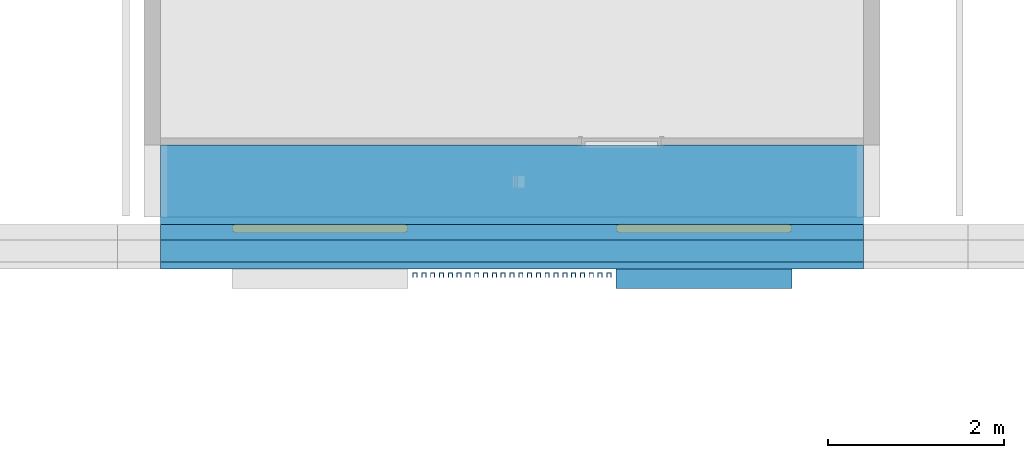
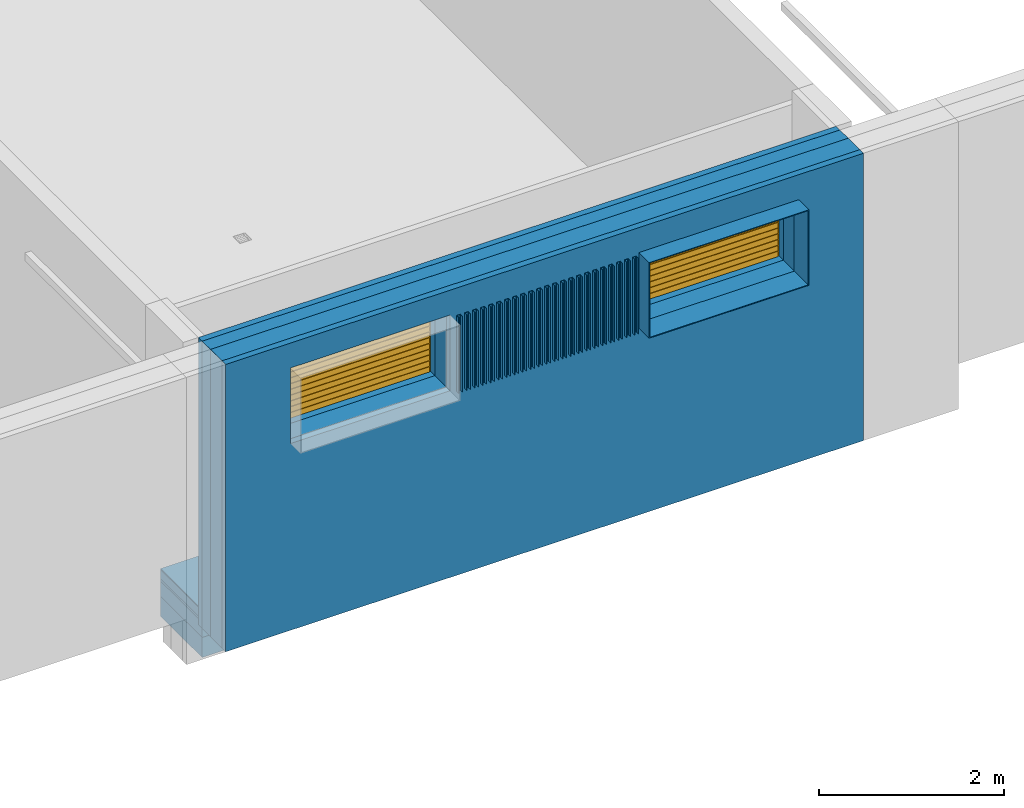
# One storey, part 18 of 100: 24 discrete accessories, 9 building element parts, 2 windows, 2 openings, 2 elements without a shape of their own.
"""IFC2X3 building model written with IfcOpenShell, lengths in millimetres."""

from ifc_helpers import new_model, entity, si_unit, converted_unit, derived_unit, money_unit, direction, frame, origin_with_axes, origin_2d_with_axis, place, context, subcontext, project, spatial, polyline, rectangle, outline, extrude, faceted_brep, source, transform, mapped, material, type_object, element, fill, aggregate, save


model = new_model("IFC2X3")

# Units and contexts
model_context = context("Model", 3, precision=0.01, world=origin_with_axes(), true_north=direction((0.0, 1.0)))
body_context = subcontext(model_context, "Body", "Model", "MODEL_VIEW")
ifc_project = project(units=[si_unit("LENGTHUNIT", "METRE", prefix="MILLI"), si_unit("AREAUNIT", "SQUARE_METRE"), si_unit("VOLUMEUNIT", "CUBIC_METRE"), converted_unit("PLANEANGLEUNIT", "DEGREE", entity("IfcPlaneAngleMeasure", 0.0174532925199), si_unit("PLANEANGLEUNIT", "RADIAN"), dimensions=[0, 0, 0, 0, 0, 0, 0]), si_unit("SOLIDANGLEUNIT", "STERADIAN"), money_unit("EUR"), converted_unit("TIMEUNIT", "Year", entity("IfcTimeMeasure", 31556926.0), si_unit("TIMEUNIT", "SECOND"), dimensions=[0, 0, 1, 0, 0, 0, 0]), si_unit("MASSUNIT", "GRAM", prefix="KILO"), si_unit("THERMODYNAMICTEMPERATUREUNIT", "DEGREE_CELSIUS"), si_unit("LUMINOUSINTENSITYUNIT", "LUMEN"), si_unit("ENERGYUNIT", "JOULE", prefix="MEGA"), derived_unit("THERMALCONDUCTANCEUNIT", [(si_unit("POWERUNIT", "WATT"), 1), (si_unit("LENGTHUNIT", "METRE"), -1), (si_unit("THERMODYNAMICTEMPERATUREUNIT", "KELVIN"), -1)]), derived_unit("SPECIFICHEATCAPACITYUNIT", [(si_unit("ENERGYUNIT", "JOULE"), 1), (si_unit("MASSUNIT", "GRAM", prefix="KILO"), -1), (si_unit("THERMODYNAMICTEMPERATUREUNIT", "KELVIN"), -1)]), derived_unit("MASSDENSITYUNIT", [(si_unit("MASSUNIT", "GRAM", prefix="KILO"), 1), (si_unit("VOLUMEUNIT", "CUBIC_METRE"), -1)])], contexts=[model_context])

# Site, building, storey
site_placement = place(None, origin_with_axes())
site = spatial("IfcSite", under=ifc_project, at=site_placement, Name="Politse- ja Piirivalveameti ning Päästeameti ühishoone", CompositionType="ELEMENT")
building_placement = place(site_placement, origin_with_axes())
building = spatial("IfcBuilding", under=site, at=building_placement, Name="Politse- ja Piirivalveameti ning Päästeameti ühishoone", CompositionType="ELEMENT")
storey_placement = place(building_placement, frame((0.0, 0.0, 3800.0), z_axis=(0.0, 0.0, 1.0), x_axis=(1.0, 0.0, 0.0)))
storey = spatial("IfcBuildingStorey", under=building, at=storey_placement, Name="Teine korrus", CompositionType="ELEMENT", Elevation=3800.0)

# Window
window_style = type_object("IfcWindowStyle", Name="Glass Block Wall 23", ConstructionType="NOTDEFINED", OperationType="USERDEFINED", ParameterTakesPrecedence=False, Sizeable=False)
shared_shape_1 = source(origin_with_axes(), body_context, "Body", "Brep", [
    faceted_brep([(1000.0, -16.0, 0.0), (1000.0, -86.0, 0.0), (-1000.0, -86.0, 0.0), (-1000.0, -16.0, 0.0), (1000.0, -16.0, 1000.0), (1000.0, -86.0, 1000.0), (-1000.0, -86.0, 1000.0), (975.0, -86.0, 6.42857142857), (-975.0, -86.0, 6.42857142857), (-975.0, -86.0, 76.4285714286), (975.0, -86.0, 76.4285714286), (975.0, -86.0, 82.8571428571), (-975.0, -86.0, 82.8571428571), (-975.0, -86.0, 152.857142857), (975.0, -86.0, 152.857142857), (975.0, -86.0, 159.285714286), (-975.0, -86.0, 159.285714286), (-975.0, -86.0, 229.285714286), (975.0, -86.0, 229.285714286), (975.0, -86.0, 235.714285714), (-975.0, -86.0, 235.714285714), (-975.0, -86.0, 305.714285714), (975.0, -86.0, 305.714285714), (975.0, -86.0, 312.142857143), (-975.0, -86.0, 312.142857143), (-975.0, -86.0, 382.142857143), (975.0, -86.0, 382.142857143), (975.0, -86.0, 388.571428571), (-975.0, -86.0, 388.571428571), (-975.0, -86.0, 458.571428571), (975.0, -86.0, 458.571428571), (975.0, -86.0, 465.0), (-975.0, -86.0, 465.0), (-975.0, -86.0, 535.0), (975.0, -86.0, 535.0), (975.0, -86.0, 541.428571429), (-975.0, -86.0, 541.428571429), (-975.0, -86.0, 611.428571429), (975.0, -86.0, 611.428571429), (975.0, -86.0, 617.857142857), (-975.0, -86.0, 617.857142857), (-975.0, -86.0, 687.857142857), (975.0, -86.0, 687.857142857), (975.0, -86.0, 694.285714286), (-975.0, -86.0, 694.285714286), (-975.0, -86.0, 764.285714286), (975.0, -86.0, 764.285714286), (975.0, -86.0, 770.714285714), (-975.0, -86.0, 770.714285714), (-975.0, -86.0, 840.714285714), (975.0, -86.0, 840.714285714), (975.0, -86.0, 847.142857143), (-975.0, -86.0, 847.142857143), (-975.0, -86.0, 917.142857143), (975.0, -86.0, 917.142857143), (975.0, -86.0, 923.571428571), (-975.0, -86.0, 923.571428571), (-975.0, -86.0, 993.571428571), (975.0, -86.0, 993.571428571), (-1000.0, -16.0, 1000.0), (975.0, -16.0, 6.42857142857), (975.0, -16.0, 76.4285714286), (-975.0, -16.0, 76.4285714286), (-975.0, -16.0, 6.42857142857), (975.0, -16.0, 82.8571428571), (975.0, -16.0, 152.857142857), (-975.0, -16.0, 152.857142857), (-975.0, -16.0, 82.8571428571), (975.0, -16.0, 159.285714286), (975.0, -16.0, 229.285714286), (-975.0, -16.0, 229.285714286), (-975.0, -16.0, 159.285714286), (975.0, -16.0, 235.714285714), (975.0, -16.0, 305.714285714), (-975.0, -16.0, 305.714285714), (-975.0, -16.0, 235.714285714), (975.0, -16.0, 312.142857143), (975.0, -16.0, 382.142857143), (-975.0, -16.0, 382.142857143), (-975.0, -16.0, 312.142857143), (975.0, -16.0, 388.571428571), (975.0, -16.0, 458.571428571), (-975.0, -16.0, 458.571428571), (-975.0, -16.0, 388.571428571), (975.0, -16.0, 465.0), (975.0, -16.0, 535.0), (-975.0, -16.0, 535.0), (-975.0, -16.0, 465.0), (975.0, -16.0, 541.428571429), (975.0, -16.0, 611.428571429), (-975.0, -16.0, 611.428571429), (-975.0, -16.0, 541.428571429), (975.0, -16.0, 617.857142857), (975.0, -16.0, 687.857142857), (-975.0, -16.0, 687.857142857), (-975.0, -16.0, 617.857142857), (975.0, -16.0, 694.285714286), (975.0, -16.0, 764.285714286), (-975.0, -16.0, 764.285714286), (-975.0, -16.0, 694.285714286), (975.0, -16.0, 770.714285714), (975.0, -16.0, 840.714285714), (-975.0, -16.0, 840.714285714), (-975.0, -16.0, 770.714285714), (975.0, -16.0, 847.142857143), (975.0, -16.0, 917.142857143), (-975.0, -16.0, 917.142857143), (-975.0, -16.0, 847.142857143), (975.0, -16.0, 923.571428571), (975.0, -16.0, 993.571428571), (-975.0, -16.0, 993.571428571), (-975.0, -16.0, 923.571428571)], [[[0, 1, 2, 3]], [[4, 5, 1, 0]], [[1, 5, 6, 2], [7, 8, 9, 10], [11, 12, 13, 14], [15, 16, 17, 18], [19, 20, 21, 22], [23, 24, 25, 26], [27, 28, 29, 30], [31, 32, 33, 34], [35, 36, 37, 38], [39, 40, 41, 42], [43, 44, 45, 46], [47, 48, 49, 50], [51, 52, 53, 54], [55, 56, 57, 58]], [[3, 2, 6, 59]], [[0, 3, 59, 4], [60, 61, 62, 63], [64, 65, 66, 67], [68, 69, 70, 71], [72, 73, 74, 75], [76, 77, 78, 79], [80, 81, 82, 83], [84, 85, 86, 87], [88, 89, 90, 91], [92, 93, 94, 95], [96, 97, 98, 99], [100, 101, 102, 103], [104, 105, 106, 107], [108, 109, 110, 111]], [[59, 6, 5, 4]], [[63, 8, 7, 60]], [[62, 9, 8, 63]], [[61, 10, 9, 62]], [[60, 7, 10, 61]], [[67, 12, 11, 64]], [[66, 13, 12, 67]], [[65, 14, 13, 66]], [[64, 11, 14, 65]], [[71, 16, 15, 68]], [[70, 17, 16, 71]], [[69, 18, 17, 70]], [[68, 15, 18, 69]], [[75, 20, 19, 72]], [[74, 21, 20, 75]], [[73, 22, 21, 74]], [[72, 19, 22, 73]], [[79, 24, 23, 76]], [[78, 25, 24, 79]], [[77, 26, 25, 78]], [[76, 23, 26, 77]], [[83, 28, 27, 80]], [[82, 29, 28, 83]], [[81, 30, 29, 82]], [[80, 27, 30, 81]], [[87, 32, 31, 84]], [[86, 33, 32, 87]], [[85, 34, 33, 86]], [[84, 31, 34, 85]], [[91, 36, 35, 88]], [[90, 37, 36, 91]], [[89, 38, 37, 90]], [[88, 35, 38, 89]], [[95, 40, 39, 92]], [[94, 41, 40, 95]], [[93, 42, 41, 94]], [[92, 39, 42, 93]], [[99, 44, 43, 96]], [[98, 45, 44, 99]], [[97, 46, 45, 98]], [[96, 43, 46, 97]], [[103, 48, 47, 100]], [[102, 49, 48, 103]], [[101, 50, 49, 102]], [[100, 47, 50, 101]], [[107, 52, 51, 104]], [[106, 53, 52, 107]], [[105, 54, 53, 106]], [[104, 51, 54, 105]], [[111, 56, 55, 108]], [[110, 57, 56, 111]], [[109, 58, 57, 110]], [[108, 55, 58, 109]]]),
    faceted_brep([(975.0, 0.0, 6.42857142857), (975.0, -102.0, 6.42857142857), (-975.0, -102.0, 6.42857142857), (-975.0, 0.0, 6.42857142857), (975.0, 0.0, 76.4285714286), (975.0, -102.0, 76.4285714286), (-975.0, -102.0, 76.4285714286), (-975.0, 0.0, 76.4285714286)], [[[0, 1, 2, 3]], [[4, 5, 1, 0]], [[1, 5, 6, 2]], [[3, 2, 6, 7]], [[0, 3, 7, 4]], [[7, 6, 5, 4]]]),
    faceted_brep([(975.0, 0.0, 82.8571428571), (975.0, -102.0, 82.8571428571), (-975.0, -102.0, 82.8571428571), (-975.0, 0.0, 82.8571428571), (975.0, 0.0, 152.857142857), (975.0, -102.0, 152.857142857), (-975.0, -102.0, 152.857142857), (-975.0, 0.0, 152.857142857)], [[[0, 1, 2, 3]], [[4, 5, 1, 0]], [[1, 5, 6, 2]], [[3, 2, 6, 7]], [[0, 3, 7, 4]], [[7, 6, 5, 4]]]),
    faceted_brep([(975.0, 0.0, 159.285714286), (975.0, -102.0, 159.285714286), (-975.0, -102.0, 159.285714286), (-975.0, 0.0, 159.285714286), (975.0, 0.0, 229.285714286), (975.0, -102.0, 229.285714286), (-975.0, -102.0, 229.285714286), (-975.0, 0.0, 229.285714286)], [[[0, 1, 2, 3]], [[4, 5, 1, 0]], [[1, 5, 6, 2]], [[3, 2, 6, 7]], [[0, 3, 7, 4]], [[7, 6, 5, 4]]]),
    faceted_brep([(975.0, 0.0, 235.714285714), (975.0, -102.0, 235.714285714), (-975.0, -102.0, 235.714285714), (-975.0, 0.0, 235.714285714), (975.0, 0.0, 305.714285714), (975.0, -102.0, 305.714285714), (-975.0, -102.0, 305.714285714), (-975.0, 0.0, 305.714285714)], [[[0, 1, 2, 3]], [[4, 5, 1, 0]], [[1, 5, 6, 2]], [[3, 2, 6, 7]], [[0, 3, 7, 4]], [[7, 6, 5, 4]]]),
    faceted_brep([(975.0, 0.0, 312.142857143), (975.0, -102.0, 312.142857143), (-975.0, -102.0, 312.142857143), (-975.0, 0.0, 312.142857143), (975.0, 0.0, 382.142857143), (975.0, -102.0, 382.142857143), (-975.0, -102.0, 382.142857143), (-975.0, 0.0, 382.142857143)], [[[0, 1, 2, 3]], [[4, 5, 1, 0]], [[1, 5, 6, 2]], [[3, 2, 6, 7]], [[0, 3, 7, 4]], [[7, 6, 5, 4]]]),
    faceted_brep([(975.0, 0.0, 388.571428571), (975.0, -102.0, 388.571428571), (-975.0, -102.0, 388.571428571), (-975.0, 0.0, 388.571428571), (975.0, 0.0, 458.571428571), (975.0, -102.0, 458.571428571), (-975.0, -102.0, 458.571428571), (-975.0, 0.0, 458.571428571)], [[[0, 1, 2, 3]], [[4, 5, 1, 0]], [[1, 5, 6, 2]], [[3, 2, 6, 7]], [[0, 3, 7, 4]], [[7, 6, 5, 4]]]),
    faceted_brep([(975.0, 0.0, 465.0), (975.0, -102.0, 465.0), (-975.0, -102.0, 465.0), (-975.0, 0.0, 465.0), (975.0, 0.0, 535.0), (975.0, -102.0, 535.0), (-975.0, -102.0, 535.0), (-975.0, 0.0, 535.0)], [[[0, 1, 2, 3]], [[4, 5, 1, 0]], [[1, 5, 6, 2]], [[3, 2, 6, 7]], [[0, 3, 7, 4]], [[7, 6, 5, 4]]]),
    faceted_brep([(975.0, 0.0, 541.428571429), (975.0, -102.0, 541.428571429), (-975.0, -102.0, 541.428571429), (-975.0, 0.0, 541.428571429), (975.0, 0.0, 611.428571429), (975.0, -102.0, 611.428571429), (-975.0, -102.0, 611.428571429), (-975.0, 0.0, 611.428571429)], [[[0, 1, 2, 3]], [[4, 5, 1, 0]], [[1, 5, 6, 2]], [[3, 2, 6, 7]], [[0, 3, 7, 4]], [[7, 6, 5, 4]]]),
    faceted_brep([(975.0, 0.0, 617.857142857), (975.0, -102.0, 617.857142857), (-975.0, -102.0, 617.857142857), (-975.0, 0.0, 617.857142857), (975.0, 0.0, 687.857142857), (975.0, -102.0, 687.857142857), (-975.0, -102.0, 687.857142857), (-975.0, 0.0, 687.857142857)], [[[0, 1, 2, 3]], [[4, 5, 1, 0]], [[1, 5, 6, 2]], [[3, 2, 6, 7]], [[0, 3, 7, 4]], [[7, 6, 5, 4]]]),
    faceted_brep([(975.0, 0.0, 694.285714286), (975.0, -102.0, 694.285714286), (-975.0, -102.0, 694.285714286), (-975.0, 0.0, 694.285714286), (975.0, 0.0, 764.285714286), (975.0, -102.0, 764.285714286), (-975.0, -102.0, 764.285714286), (-975.0, 0.0, 764.285714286)], [[[0, 1, 2, 3]], [[4, 5, 1, 0]], [[1, 5, 6, 2]], [[3, 2, 6, 7]], [[0, 3, 7, 4]], [[7, 6, 5, 4]]]),
    faceted_brep([(975.0, 0.0, 770.714285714), (975.0, -102.0, 770.714285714), (-975.0, -102.0, 770.714285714), (-975.0, 0.0, 770.714285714), (975.0, 0.0, 840.714285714), (975.0, -102.0, 840.714285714), (-975.0, -102.0, 840.714285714), (-975.0, 0.0, 840.714285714)], [[[0, 1, 2, 3]], [[4, 5, 1, 0]], [[1, 5, 6, 2]], [[3, 2, 6, 7]], [[0, 3, 7, 4]], [[7, 6, 5, 4]]]),
    faceted_brep([(975.0, 0.0, 847.142857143), (975.0, -102.0, 847.142857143), (-975.0, -102.0, 847.142857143), (-975.0, 0.0, 847.142857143), (975.0, 0.0, 917.142857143), (975.0, -102.0, 917.142857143), (-975.0, -102.0, 917.142857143), (-975.0, 0.0, 917.142857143)], [[[0, 1, 2, 3]], [[4, 5, 1, 0]], [[1, 5, 6, 2]], [[3, 2, 6, 7]], [[0, 3, 7, 4]], [[7, 6, 5, 4]]]),
    faceted_brep([(975.0, 0.0, 923.571428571), (975.0, -102.0, 923.571428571), (-975.0, -102.0, 923.571428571), (-975.0, 0.0, 923.571428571), (975.0, 0.0, 993.571428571), (975.0, -102.0, 993.571428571), (-975.0, -102.0, 993.571428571), (-975.0, 0.0, 993.571428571)], [[[0, 1, 2, 3]], [[4, 5, 1, 0]], [[1, 5, 6, 2]], [[3, 2, 6, 7]], [[0, 3, 7, 4]], [[7, 6, 5, 4]]]),
])
wall_placement = place(storey_placement, frame((18590.0881112, 0.0, 0.0), z_axis=(0.0, 0.0, 1.0), x_axis=(1.0, 0.0, 0.0)))
opening_1_placement = place(wall_placement, frame((1809.59012244, 0.0, 2470.0), z_axis=(0.0, 0.0, 1.0), x_axis=(1.0, 0.0, 0.0)))
window_1_placement = place(opening_1_placement, frame((-1000.0, 0.0, 0.0), z_axis=(0.0, 0.0, 1.0), x_axis=(1.0, 0.0, 0.0)))
window_1 = element("IfcWindow", 1, at=window_1_placement, inside=storey, type_object=window_style, Name="VR-02", ObjectType="WINDOW", OverallHeight=1000.0, OverallWidth=2000.0, context=body_context, shape_type="MappedRepresentation", body=[
    mapped(shared_shape_1, transform((1000.0, 2.0, 0.0))),
])

opening_2_placement = place(wall_placement, frame((6169.65345427, 0.0, 2470.0), z_axis=(0.0, 0.0, 1.0), x_axis=(1.0, 0.0, 0.0)))
window_2_placement = place(opening_2_placement, frame((-1000.0, 0.0, 0.0), z_axis=(0.0, 0.0, 1.0), x_axis=(1.0, 0.0, 0.0)))
window_2 = element("IfcWindow", 2, at=window_2_placement, inside=storey, type_object=window_style, Name="VR-02", ObjectType="WINDOW", OverallHeight=1000.0, OverallWidth=2000.0, context=body_context, shape_type="MappedRepresentation", body=[
    mapped(shared_shape_1, transform((1000.0, 2.0, 0.0))),
])

# Discrete accessories
ifc_material_1 = material(Name="ET-05_Teras")
discrete_accessory_type_1 = type_object("IfcDiscreteAccessoryType", Name="UAP Column 23")
shared_shape_2 = source(origin_with_axes(), body_context, "Body", "Brep", [
    faceted_brep([(25.0, -25.0, 0.0), (25.0, -20.0, 0.0), (25.0, -20.0, 1000.0), (25.0, -25.0, 1000.0), (-25.0, -25.0, 0.0), (-25.0, 25.0, 0.0), (25.0, 25.0, 0.0), (25.0, 20.0, 0.0), (-8.5, 20.0, 0.0), (-14.25, 18.4592921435, 0.0), (-18.4592921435, 14.25, 0.0), (-20.0, 8.5, 0.0), (-20.0, -8.5, 0.0), (-18.4592921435, -14.25, 0.0), (-14.25, -18.4592921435, 0.0), (-8.5, -20.0, 0.0), (-8.5, -20.0, 1000.0), (-14.25, -18.4592921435, 1000.0), (-18.4592921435, -14.25, 1000.0), (-20.0, -8.5, 1000.0), (-20.0, 8.5, 1000.0), (-18.4592921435, 14.25, 1000.0), (-14.25, 18.4592921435, 1000.0), (-8.5, 20.0, 1000.0), (25.0, 20.0, 1000.0), (25.0, 25.0, 1000.0), (-25.0, 25.0, 1000.0), (-25.0, -25.0, 1000.0)], [[[0, 1, 2, 3]], [[0, 4, 5, 6, 7, 8, 9, 10, 11, 12, 13, 14, 15, 1]], [[1, 15, 16, 2]], [[3, 2, 16, 17, 18, 19, 20, 21, 22, 23, 24, 25, 26, 27]], [[4, 0, 3, 27]], [[5, 4, 27, 26]], [[6, 5, 26, 25]], [[7, 6, 25, 24]], [[8, 7, 24, 23]], [[9, 8, 23, 22]], [[10, 9, 22, 21]], [[11, 10, 21, 20]], [[12, 11, 20, 19]], [[13, 12, 19, 18]], [[14, 13, 18, 17]], [[15, 14, 17, 16]]]),
])
for number, where, z_axis, x_axis in (
    (3, (21479.6782336, -575.0, 2470.0), (0.0, 0.0, 1.0), (0.0, -1.0, 0.0)),
    (4, (21579.6782336, -575.0, 2470.0), (0.0, 0.0, 1.0), (0.0, -1.0, 0.0)),
    (5, (21679.6782336, -575.0, 2470.0), (0.0, 0.0, 1.0), (0.0, -1.0, 0.0)),
    (6, (21779.6782336, -575.0, 2470.0), (0.0, 0.0, 1.0), (0.0, -1.0, 0.0)),
    (7, (21879.6782336, -575.0, 2470.0), (0.0, 0.0, 1.0), (0.0, -1.0, 0.0)),
    (8, (21979.6782336, -575.0, 2470.0), (0.0, 0.0, 1.0), (0.0, -1.0, 0.0)),
    (9, (22079.6782336, -575.0, 2470.0), (0.0, 0.0, 1.0), (0.0, -1.0, 0.0)),
    (10, (22179.6782336, -575.0, 2470.0), (0.0, 0.0, 1.0), (0.0, -1.0, 0.0)),
    (11, (22279.6782336, -575.0, 2470.0), (0.0, 0.0, 1.0), (0.0, -1.0, 0.0)),
    (12, (22379.6782336, -575.0, 2470.0), (0.0, 0.0, 1.0), (0.0, -1.0, 0.0)),
    (13, (22479.6782336, -575.0, 2470.0), (0.0, 0.0, 1.0), (0.0, -1.0, 0.0)),
    (14, (22579.6782336, -575.0, 2470.0), (0.0, 0.0, 1.0), (0.0, -1.0, 0.0)),
    (15, (22679.6782336, -575.0, 2470.0), (0.0, 0.0, 1.0), (0.0, -1.0, 0.0)),
    (16, (22779.6782336, -575.0, 2470.0), (0.0, 0.0, 1.0), (0.0, -1.0, 0.0)),
    (17, (22879.6782336, -575.0, 2470.0), (0.0, 0.0, 1.0), (0.0, -1.0, 0.0)),
    (18, (22979.6782336, -575.0, 2470.0), (0.0, 0.0, 1.0), (0.0, -1.0, 0.0)),
    (19, (23079.6782336, -575.0, 2470.0), (0.0, 0.0, 1.0), (0.0, -1.0, 0.0)),
    (20, (23179.6782336, -575.0, 2470.0), (0.0, 0.0, 1.0), (0.0, -1.0, 0.0)),
    (21, (23279.6782336, -575.0, 2470.0), (0.0, 0.0, 1.0), (0.0, -1.0, 0.0)),
    (22, (23379.6782336, -575.0, 2470.0), (0.0, 0.0, 1.0), (0.0, -1.0, 0.0)),
    (23, (23479.6782336, -575.0, 2470.0), (0.0, 0.0, 1.0), (0.0, -1.0, 0.0)),
    (24, (23579.6782336, -575.0, 2470.0), (0.0, 0.0, 1.0), (0.0, -1.0, 0.0)),
    (25, (23679.6782336, -575.0, 2470.0), (0.0, 0.0, 1.0), (0.0, -1.0, 0.0)),
):
    element("IfcDiscreteAccessory", number, at=place(storey_placement, frame(where, z_axis=z_axis, x_axis=x_axis)), inside=storey, type_object=discrete_accessory_type_1, material=ifc_material_1, Name="Fassaadiribid", context=body_context, shape_type="MappedRepresentation", body=[
        mapped(shared_shape_2, transform((0.0, 0.0, 0.0))),
    ])
ifc_material_2 = material(Name="SV-01_Krohv - Kips")
discrete_accessory_type_2 = type_object("IfcDiscreteAccessoryType", Name="Architrave 01 23")
shared_shape_3 = source(origin_with_axes(), body_context, "Body", "Brep", [
    faceted_brep([(-1000.0, 0.0, -10.0), (1000.0, 0.0, -10.0), (1000.0, -300.182356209, -10.0), (-1000.0, -300.182356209, -10.0), (-990.0, 0.0, 0.0), (990.0, 0.0, 0.0), (990.0, -300.182356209, 0.0), (-990.0, -300.182356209, 0.0)], [[[0, 1, 2, 3]], [[0, 4, 5, 1]], [[1, 5, 6, 2]], [[3, 2, 6, 7]], [[4, 0, 3, 7]], [[5, 4, 7, 6]]]),
    faceted_brep([(1000.0, 0.0, -10.0), (1000.0, 0.0, 990.0), (1000.0, -300.182356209, 990.0), (1000.0, -300.182356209, -10.0), (990.0, 0.0, 0.0), (990.0, 0.0, 980.0), (990.0, -300.182356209, 980.0), (990.0, -300.182356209, 0.0)], [[[0, 1, 2, 3]], [[0, 4, 5, 1]], [[1, 5, 6, 2]], [[3, 2, 6, 7]], [[4, 0, 3, 7]], [[5, 4, 7, 6]]]),
    faceted_brep([(1000.0, 0.0, 990.0), (-1000.0, 0.0, 990.0), (-1000.0, -300.182356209, 990.0), (1000.0, -300.182356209, 990.0), (990.0, 0.0, 980.0), (-990.0, 0.0, 980.0), (-990.0, -300.182356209, 980.0), (990.0, -300.182356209, 980.0)], [[[0, 1, 2, 3]], [[0, 4, 5, 1]], [[1, 5, 6, 2]], [[3, 2, 6, 7]], [[4, 0, 3, 7]], [[5, 4, 7, 6]]]),
    faceted_brep([(-1000.0, 0.0, 990.0), (-1000.0, 0.0, -10.0), (-1000.0, -300.182356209, -10.0), (-1000.0, -300.182356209, 990.0), (-990.0, 0.0, 980.0), (-990.0, 0.0, 0.0), (-990.0, -300.182356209, 0.0), (-990.0, -300.182356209, 980.0)], [[[0, 1, 2, 3]], [[0, 4, 5, 1]], [[1, 5, 6, 2]], [[3, 2, 6, 7]], [[4, 0, 3, 7]], [[5, 4, 7, 6]]]),
])
discrete_accessory_placement = place(storey_placement, frame((24759.7415655, -430.000022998, 2480.0), z_axis=(0.0, 0.0, 1.0), x_axis=(1.0, 0.0, 0.0)))
element("IfcDiscreteAccessory", 26, at=discrete_accessory_placement, inside=storey, type_object=discrete_accessory_type_2, material=ifc_material_2, Name="AKNARAAM 01", context=body_context, shape_type="MappedRepresentation", body=[
    mapped(shared_shape_3, transform((0.0, 0.0, 0.0))),
])

# Slab, building element parts
slab_type = type_object("IfcSlabType", Name="VL-06_Vahelagi   265 õhuhaare 632", PredefinedType="ROOF")
slab_placement = place(storey_placement, frame((18590.0881112, 0.0, 247.000055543), z_axis=(0.0, 0.0, 1.0), x_axis=(1.0, 0.0, 0.0)))
slab = element("IfcSlab", 27, at=slab_placement, inside=storey, type_object=slab_type, Name="VL-06", PredefinedType="ROOF")
ifc_material_3 = material(Name="KON-06_Raudbetoon - Konstruktsioon")
building_element_part_1_placement = place(slab_placement, origin_with_axes())
building_element_part_1 = element("IfcBuildingElementPart", 28, at=building_element_part_1_placement, material=ifc_material_3, Name="KON-06_Raudbetoon - Konstruktsioon", context=body_context, shape_type="SweptSolid", body=[
    extrude(outline(polyline([(0.0, 0.0), (7979.61277161, 0.0), (7979.61277161, 899.772752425), (0.0, 899.772752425), (0.0, 0.0)])), frame((0.0, 0.0, -632.0), z_axis=(0.0, 0.0, 1.0), x_axis=(1.0, 0.0, 0.0)), (0.0, 0.0, 1.0), 265.0),
])
ifc_material_4 = material(Name="SOJ-02_Soojustus - Fiiber Kõva")
building_element_part_2_placement = place(slab_placement, origin_with_axes())
building_element_part_2 = element("IfcBuildingElementPart", 29, at=building_element_part_2_placement, material=ifc_material_4, Name="SOJ-02_Soojustus - Fiiber Kõva", context=body_context, shape_type="SweptSolid", body=[
    extrude(outline(polyline([(0.0, 0.0), (7979.61277161, 0.0), (7979.61277161, 899.772752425), (0.0, 899.772752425), (0.0, 0.0)])), frame((0.0, 0.0, -367.0), z_axis=(0.0, 0.0, 1.0), x_axis=(1.0, 0.0, 0.0)), (0.0, 0.0, 1.0), 200.0),
])
ifc_material_5 = material(Name="Õhkvahe")
building_element_part_3_placement = place(slab_placement, origin_with_axes())
building_element_part_3 = element("IfcBuildingElementPart", 30, at=building_element_part_3_placement, material=ifc_material_5, Name="Õhkvahe", context=body_context, shape_type="SweptSolid", body=[
    extrude(outline(polyline([(0.0, 0.0), (7979.61277161, 0.0), (7979.61277161, 899.772752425), (0.0, 899.772752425), (0.0, 0.0)])), frame((0.0, 0.0, -167.0), z_axis=(0.0, 0.0, 1.0), x_axis=(1.0, 0.0, 0.0)), (0.0, 0.0, 1.0), 32.0),
])
building_element_part_4_placement = place(slab_placement, origin_with_axes())
building_element_part_4 = element("IfcBuildingElementPart", 31, at=building_element_part_4_placement, material=ifc_material_5, Name="Õhkvahe", context=body_context, shape_type="SweptSolid", body=[
    extrude(outline(polyline([(0.0, 0.0), (7979.61277161, 0.0), (7979.61277161, 899.772752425), (0.0, 899.772752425), (0.0, 0.0)])), frame((0.0, 0.0, -135.0), z_axis=(0.0, 0.0, 1.0), x_axis=(1.0, 0.0, 0.0)), (0.0, 0.0, 1.0), 120.0),
])
ifc_material_6 = material(Name="Vineer")
building_element_part_5_placement = place(slab_placement, origin_with_axes())
building_element_part_5 = element("IfcBuildingElementPart", 32, at=building_element_part_5_placement, material=ifc_material_6, Name="Vineer", context=body_context, shape_type="SweptSolid", body=[
    extrude(outline(polyline([(0.0, 0.0), (7979.61277161, 0.0), (7979.61277161, 899.772752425), (0.0, 899.772752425), (0.0, 0.0)])), frame((0.0, 0.0, -15.0), z_axis=(0.0, 0.0, 1.0), x_axis=(1.0, 0.0, 0.0)), (0.0, 0.0, 1.0), 15.0),
])
aggregate(slab, [building_element_part_1, building_element_part_2, building_element_part_3, building_element_part_4, building_element_part_5])

# Wall, opening
wall_type = type_object("IfcWallType", Name="VS-13_välissein õhuvõtt 590", PredefinedType="NOTDEFINED")
wall = element("IfcWall", 33, at=wall_placement, inside=storey, type_object=wall_type, Name="VS-13")
opening_1 = element("IfcOpeningElement", 34, at=opening_1_placement, cuts=wall, Name="VR-02", context=body_context, shape_type="SweptSolid", body=[
    extrude(rectangle(XDim=2000.0, YDim=1000.0, at=origin_2d_with_axis()), frame((0.0, -100.0, 500.0), z_axis=(0.0, -1.0, 0.0), x_axis=(-1.0, 0.0, 0.0)), (0.0, 0.0, 1.0), 1000.0),
    extrude(rectangle(XDim=2000.0, YDim=1000.0, at=origin_2d_with_axis()), frame((0.0, -100.0, 500.0), z_axis=(0.0, 1.0, 0.0), x_axis=(-1.0, 0.0, 0.0)), (0.0, 0.0, 1.0), 770.0),
])

fill(opening_1, window_1)

# Opening
opening_2 = element("IfcOpeningElement", 35, at=opening_2_placement, cuts=wall, Name="VR-02", context=body_context, shape_type="SweptSolid", body=[
    extrude(rectangle(XDim=2000.0, YDim=1000.0, at=origin_2d_with_axis()), frame((0.0, -100.0, 500.0), z_axis=(0.0, -1.0, 0.0), x_axis=(-1.0, 0.0, 0.0)), (0.0, 0.0, 1.0), 1000.0),
    extrude(rectangle(XDim=2000.0, YDim=1000.0, at=origin_2d_with_axis()), frame((0.0, -100.0, 500.0), z_axis=(0.0, 1.0, 0.0), x_axis=(-1.0, 0.0, 0.0)), (0.0, 0.0, 1.0), 770.0),
])

fill(opening_2, window_2)

# Building element part
building_element_part_6_placement = place(wall_placement, origin_with_axes())
building_element_part_6 = element("IfcBuildingElementPart", 36, at=building_element_part_6_placement, material=ifc_material_4, Name="SOJ-02_Soojustus - Fiiber Kõva", context=body_context, shape_type="SweptSolid", body=[
    extrude(outline(polyline([(0.0, 0.0), (7979.61277161, 0.0), (7979.61277161, 80.0), (0.0, 80.0), (0.0, 0.0)])), origin_with_axes(), (0.0, 0.0, 1.0), 3800.0),
])

ifc_material_7 = material(Name="KON-04_Betoon - Konstuktsioon")
building_element_part_7_placement = place(wall_placement, origin_with_axes())
building_element_part_7 = element("IfcBuildingElementPart", 37, at=building_element_part_7_placement, material=ifc_material_7, Name="KON-04_Betoon - Konstuktsioon", context=body_context, shape_type="SweptSolid", body=[
    extrude(outline(polyline([(0.0, -180.0), (7979.61277161, -180.0), (7979.61277161, 0.0), (0.0, 0.0), (0.0, -180.0)])), origin_with_axes(), (0.0, 0.0, 1.0), 3800.0),
])

ifc_material_8 = material(Name="SOJ-06_Soojustus - Plastik Kõva")
building_element_part_8_placement = place(wall_placement, origin_with_axes())
building_element_part_8 = element("IfcBuildingElementPart", 38, at=building_element_part_8_placement, material=ifc_material_8, Name="SOJ-06_Soojustus - Plastik Kõva", context=body_context, shape_type="SweptSolid", body=[
    extrude(outline(polyline([(0.0, -430.0), (7979.61277161, -430.0), (7979.61277161, -180.0), (0.0, -180.0), (0.0, -430.0)])), origin_with_axes(), (0.0, 0.0, 1.0), 3800.0),
])

building_element_part_9_placement = place(wall_placement, origin_with_axes())
building_element_part_9 = element("IfcBuildingElementPart", 39, at=building_element_part_9_placement, material=ifc_material_7, Name="KON-04_Betoon - Konstuktsioon", context=body_context, shape_type="SweptSolid", body=[
    extrude(outline(polyline([(0.0, -510.0), (7979.61277161, -510.0), (7979.61277161, -430.0), (0.0, -430.0), (0.0, -510.0)])), origin_with_axes(), (0.0, 0.0, 1.0), 3800.0),
])

aggregate(wall, [building_element_part_6, building_element_part_7, building_element_part_8, building_element_part_9])

save(model, "model.ifc")
